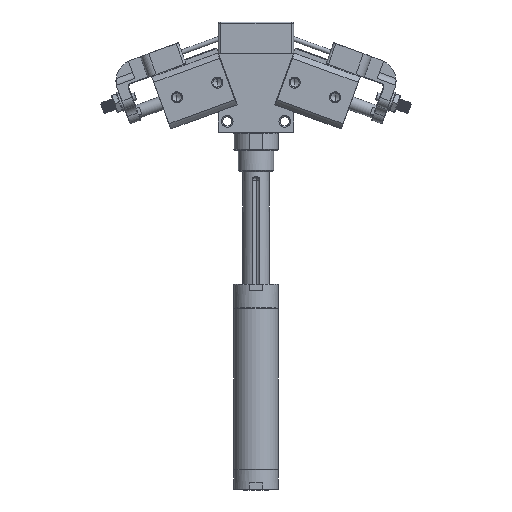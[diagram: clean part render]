
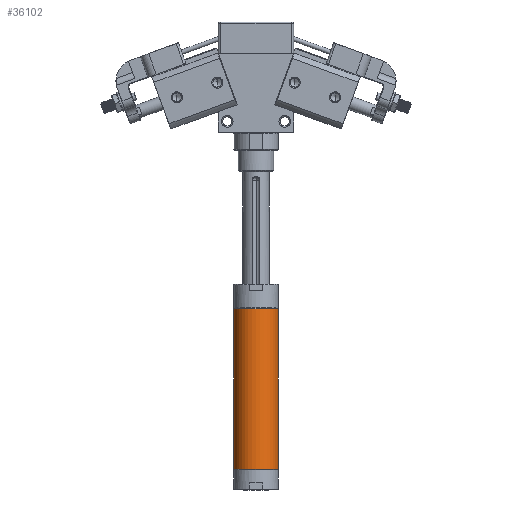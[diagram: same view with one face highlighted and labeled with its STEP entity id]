
A CAD part, front view. The second image highlights one B-rep face of the part: STEP entity #36102.
In plain terms, the highlighted cylindrical face has radius 10 mm (diameter 20 mm), a partial arc.
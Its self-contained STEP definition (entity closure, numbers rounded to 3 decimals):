
#5456 = CARTESIAN_POINT ( 'NONE',  ( 10., 0., -202.5 ) ) ;
#5728 = VERTEX_POINT ( 'NONE', #9104 ) ;
#6539 = AXIS2_PLACEMENT_3D ( 'NONE', #21961, #65490, #28220 ) ;
#9104 = CARTESIAN_POINT ( 'NONE',  ( -10., 0., -129.9 ) ) ;
#10575 = CIRCLE ( 'NONE', #76990, 10. ) ;
#13773 = EDGE_CURVE ( 'NONE', #5728, #59551, #49027, .T. ) ;
#14668 = CARTESIAN_POINT ( 'NONE',  ( -10., 0., -202.5 ) ) ;
#15871 = VECTOR ( 'NONE', #68910, 1000. ) ;
#16015 = EDGE_CURVE ( 'NONE', #59551, #79081, #36118, .T. ) ;
#19043 = EDGE_CURVE ( 'NONE', #33293, #79081, #57262, .T. ) ;
#21961 = CARTESIAN_POINT ( 'NONE',  ( 0., 0., -202.5 ) ) ;
#26138 = CARTESIAN_POINT ( 'NONE',  ( 10., 0., -118.7 ) ) ;
#26158 = FACE_OUTER_BOUND ( 'NONE', #71525, .T. ) ;
#27307 = DIRECTION ( 'NONE',  ( 0., 0., -1. ) ) ;
#28220 = DIRECTION ( 'NONE',  ( -1., 0., 0. ) ) ;
#33293 = VERTEX_POINT ( 'NONE', #58453 ) ;
#36102 = ADVANCED_FACE ( 'NONE', ( #26158 ), #73893, .T. ) ;
#36118 = CIRCLE ( 'NONE', #6539, 10. ) ;
#36205 = DIRECTION ( 'NONE',  ( 0., 0., -1. ) ) ;
#49027 = LINE ( 'NONE', #62640, #15871 ) ;
#53351 = VECTOR ( 'NONE', #69674, 1000. ) ;
#57262 = LINE ( 'NONE', #26138, #53351 ) ;
#58453 = CARTESIAN_POINT ( 'NONE',  ( 10., 0., -129.9 ) ) ;
#59551 = VERTEX_POINT ( 'NONE', #14668 ) ;
#60294 = ORIENTED_EDGE ( 'NONE', *, *, #13773, .T. ) ;
#62640 = CARTESIAN_POINT ( 'NONE',  ( -10., 0., -118.7 ) ) ;
#64559 = CARTESIAN_POINT ( 'NONE',  ( 0., 0., -129.9 ) ) ;
#65490 = DIRECTION ( 'NONE',  ( 0., 0., 1. ) ) ;
#67248 = CARTESIAN_POINT ( 'NONE',  ( 0., 0., -118.7 ) ) ;
#68559 = ORIENTED_EDGE ( 'NONE', *, *, #19043, .F. ) ;
#68910 = DIRECTION ( 'NONE',  ( 0., 0., -1. ) ) ;
#69674 = DIRECTION ( 'NONE',  ( 0., 0., -1. ) ) ;
#70051 = EDGE_CURVE ( 'NONE', #33293, #5728, #10575, .T. ) ;
#70848 = DIRECTION ( 'NONE',  ( -1., 0., 0. ) ) ;
#71525 = EDGE_LOOP ( 'NONE', ( #68559, #72981, #60294, #78267 ) ) ;
#72981 = ORIENTED_EDGE ( 'NONE', *, *, #70051, .T. ) ;
#73893 = CYLINDRICAL_SURFACE ( 'NONE', #75024, 10. ) ;
#75024 = AXIS2_PLACEMENT_3D ( 'NONE', #67248, #36205, #79791 ) ;
#76990 = AXIS2_PLACEMENT_3D ( 'NONE', #64559, #27307, #70848 ) ;
#78267 = ORIENTED_EDGE ( 'NONE', *, *, #16015, .T. ) ;
#79081 = VERTEX_POINT ( 'NONE', #5456 ) ;
#79791 = DIRECTION ( 'NONE',  ( -1., 0., 0. ) ) ;
